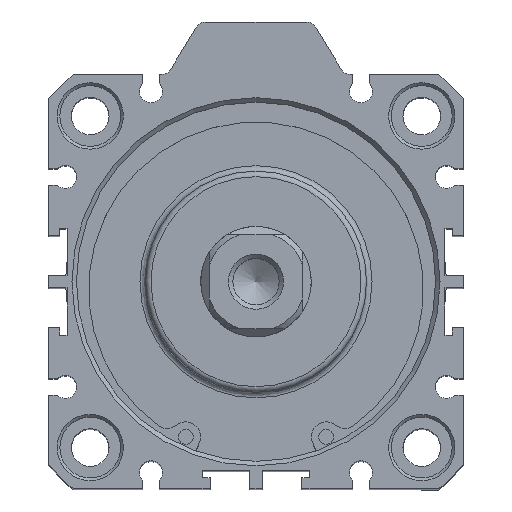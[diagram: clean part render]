
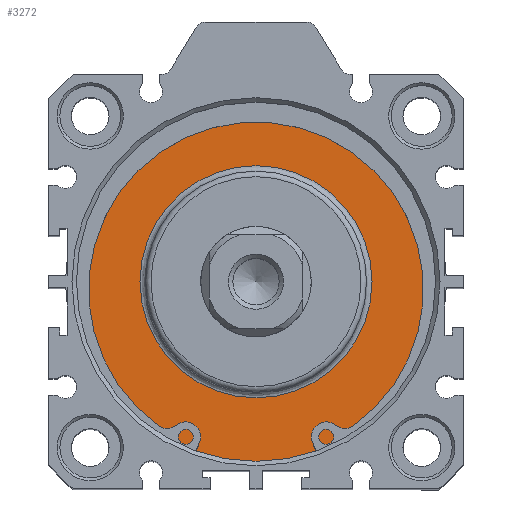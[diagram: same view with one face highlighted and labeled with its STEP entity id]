
A CAD part, top view. The second image highlights one B-rep face of the part: STEP entity #3272.
In plain terms, the highlighted planar face has unit normal (0, 0, 1).
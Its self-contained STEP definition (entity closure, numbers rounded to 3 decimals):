
#3221=CARTESIAN_POINT('',(0.359,19.684,102.3));
#3222=VERTEX_POINT('',#3221);
#3223=CARTESIAN_POINT('',(0.359,-1.316,102.3));
#3224=DIRECTION('',(0.0,0.0,1.0));
#3225=DIRECTION('',(0.0,-1.0,0.0));
#3226=AXIS2_PLACEMENT_3D('',#3223,#3224,#3225);
#3227=CIRCLE('',#3226,21.);
#3228=EDGE_CURVE('',#3222,#3222,#3227,.T.);
#3253=CARTESIAN_POINT('',(0.359,24.934,102.3));
#3254=DIRECTION('',(0.0,0.0,1.0));
#3255=DIRECTION('',(1.0,0.0,0.0));
#3256=AXIS2_PLACEMENT_3D('',#3253,#3254,#3255);
#3257=PLANE('',#3256);
#3258=CARTESIAN_POINT('',(0.359,31.184,102.3));
#3259=VERTEX_POINT('',#3258);
#3260=CARTESIAN_POINT('',(0.359,-1.316,102.3));
#3261=DIRECTION('',(0.0,0.0,-1.0));
#3262=DIRECTION('',(0.0,1.0,0.0));
#3263=AXIS2_PLACEMENT_3D('',#3260,#3261,#3262);
#3264=CIRCLE('',#3263,32.5);
#3265=EDGE_CURVE('',#3259,#3259,#3264,.T.);
#3266=ORIENTED_EDGE('',*,*,#3265,.F.);
#3267=EDGE_LOOP('',(#3266));
#3268=FACE_OUTER_BOUND('',#3267,.T.);
#3269=ORIENTED_EDGE('',*,*,#3228,.F.);
#3270=EDGE_LOOP('',(#3269));
#3271=FACE_BOUND('',#3270,.T.);
#3272=ADVANCED_FACE('',(#3268,#3271),#3257,.T.);
